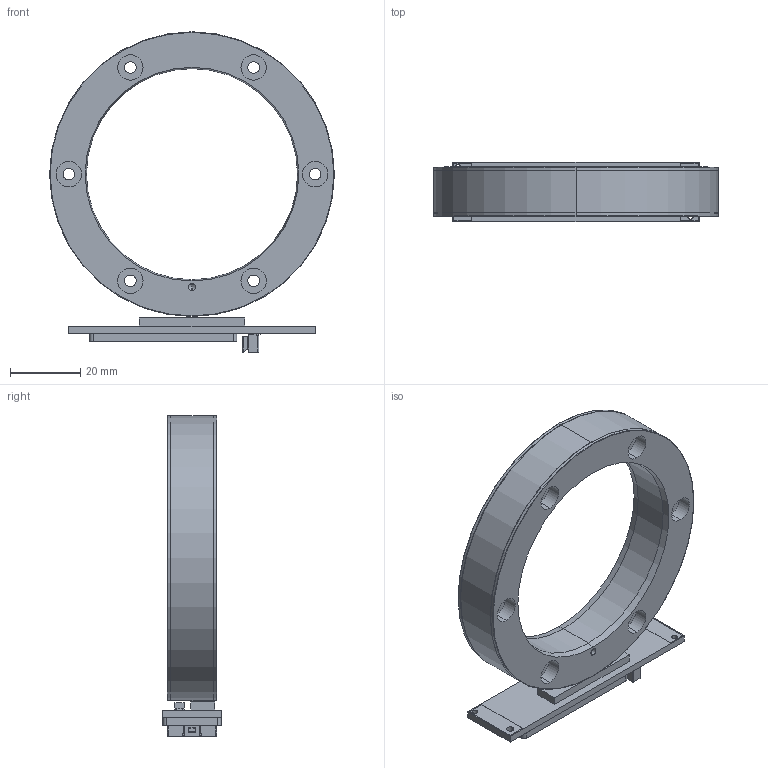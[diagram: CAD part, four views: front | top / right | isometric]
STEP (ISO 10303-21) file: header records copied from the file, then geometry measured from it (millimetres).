
FILE_DESCRIPTION (( 'STEP AP214' ), '1' );
FILE_NAME ('DBRxVx_SAR081_exposed.STEP', '2024-02-02T11:52:58', ( '' ), ( '' ), 'SwSTEP 2.0', 'SolidWorks 2022', '' );
FILE_SCHEMA (( 'AUTOMOTIVE_DESIGN' ));
Length unit declared in the file: millimetre
Products named in the file (1): DBRxVx_SAR081_exposed
Bounding box: 80.9 x 17 x 91.05 mm (x, y, z)
Volume: 34499.2 mm3; surface area: 16033.4 mm2
Topology: 2 solids, 2 shells, 1704 faces, 4660 edges, 3099 vertices
Faces by surface type: plane 1332, bspline 202, cylinder 130, cone 28, torus 8, sphere 4
Entity records: 83286 total; most frequent: CARTESIAN_POINT 26343, ORIENTED_EDGE 9310, DIRECTION 5479, EDGE_CURVE 4655, VERTEX_POINT 3099, B_SPLINE_CURVE_WITH_KNOTS 2364, VECTOR 2109, LINE 2109
